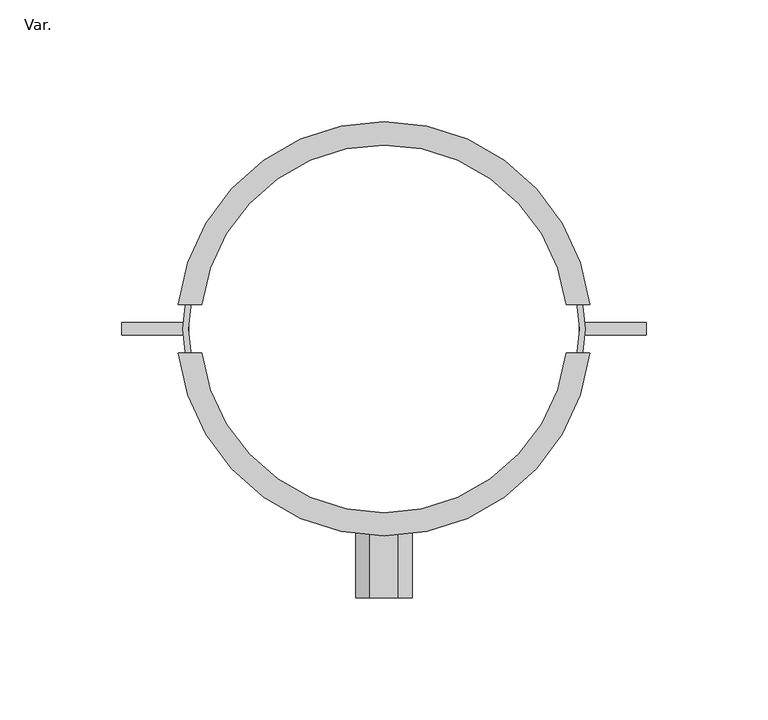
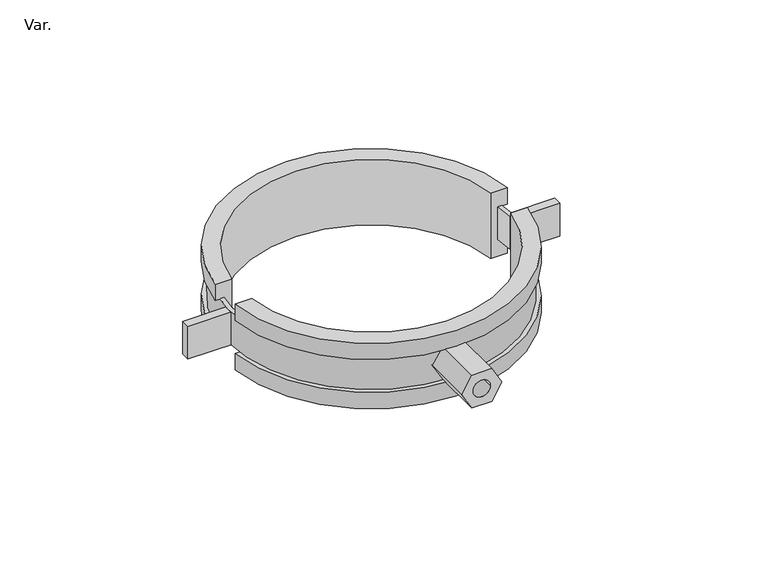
"""IFC4 building model written with IfcOpenShell, lengths in millimetres: pipe fitting geometry, AmancoWavin_ConexõesdeTubos_EsgotoSilentiumAbraçadeiraV_Ecoat : Var.."""

from ifc_helpers import new_model, si_unit, point, frame, origin, origin_with_axes, origin_2d, place, context, project, spatial, polyline, circle_curve, trimmed, segment, composite_curve, outline, extrude, source, transform, mapped, element, save
from ifc_brep_helpers import plane_surface, cylinder_surface, revolved_surface, advanced_brep


def var_06b88987(model_context):
    return source(origin(), model_context, "Body", "SolidModel", [
        extrude(outline(polyline([(0.0, -11.5470054), (-10.0, -5.7735027), (-10.0, 5.7735027), (0.0, 11.5470054), (10.0, 5.7735027), (10.0, -5.7735027), (0.0, -11.5470054)]), holes=[composite_curve([segment(trimmed(circle_curve(origin_2d(), 5.0), [point((0.0, -5.0))], [point((0.0, 5.0))], True, "CARTESIAN"), True, "CONTINUOUS"), segment(trimmed(circle_curve(origin_2d(), 5.0), [point((0.0, 5.0))], [point((0.0, -5.0))], True, "CARTESIAN"), True, "CONTINUOUS")], self_intersect=False)]), frame((0.0, -110.5, 0.0), z_axis=(0.0, 1.0, 0.0), x_axis=(0.0, 0.0, 1.0)), (0.0, 0.0, 1.0), 30.0),
        extrude(outline(composite_curve([segment(trimmed(circle_curve(origin_2d(), 82.5), [point((-82.5, 0.0))], [point((82.5, 0.0))], False, "CARTESIAN"), True, "CONTINUOUS"), segment(trimmed(circle_curve(origin_2d(), 82.5), [point((82.5, 0.0))], [point((-82.5, 0.0))], False, "CARTESIAN"), True, "CONTINUOUS")], self_intersect=False), holes=[composite_curve([segment(trimmed(circle_curve(origin_2d(), 80.0), [point((-80.0, 0.0))], [point((80.0, 0.0))], True, "CARTESIAN"), True, "CONTINUOUS"), segment(trimmed(circle_curve(origin_2d(), 80.0), [point((80.0, 0.0))], [point((-80.0, 0.0))], True, "CARTESIAN"), True, "CONTINUOUS")], self_intersect=False)]), frame((0.0, 0.0, -10.0), z_axis=(0.0, 0.0, 1.0), x_axis=(1.0, 0.0, 0.0)), (0.0, 0.0, 1.0), 20.0),
        advanced_brep(
        [(74.8348181, -10.0, 20.0), (-74.8348181, -10.0, 20.0), (-84.4097151, -10.0, 20.0), (84.4097151, -10.0, 20.0), (74.8348181, -10.0, -20.0), (84.4097151, -10.0, -20.0), (-84.4097151, -10.0, -20.0), (-74.8348181, -10.0, -20.0), (-79.3725393, -10.0, 10.0), (79.3725393, -10.0, 10.0), (84.4097151, -10.0, 10.0), (-84.4097151, -10.0, 10.0), (79.3725393, -10.0, -10.0), (-79.3725393, -10.0, -10.0), (-84.4097151, -10.0, -10.0), (84.4097151, -10.0, -10.0)],
        [
            (0, 1, circle_curve(frame((0.0, 0.0, 20.0), z_axis=(0.0, 0.0, -1.0), x_axis=(1.0, 0.0, 0.0)), 75.5)),
            (1, 2),
            (2, 3, circle_curve(frame((0.0, 0.0, 20.0), z_axis=(0.0, 0.0, 1.0), x_axis=(1.0, 0.0, 0.0)), 85.0)),
            (3, 0),
            (4, 5),
            (5, 6, circle_curve(frame((0.0, 0.0, -20.0), z_axis=(0.0, 0.0, -1.0), x_axis=(1.0, 0.0, 0.0)), 85.0)),
            (6, 7),
            (7, 4, circle_curve(frame((0.0, 0.0, -20.0), z_axis=(0.0, 0.0, 1.0), x_axis=(1.0, 0.0, 0.0)), 75.5)),
            (0, 4),
            (7, 1),
            (8, 9, circle_curve(frame((0.0, 0.0, 10.0), z_axis=(0.0, 0.0, 1.0), x_axis=(1.0, 0.0, 0.0)), 80.0)),
            (9, 10),
            (10, 11, circle_curve(frame((0.0, 0.0, 10.0), z_axis=(0.0, 0.0, -1.0), x_axis=(1.0, 0.0, 0.0)), 85.0)),
            (11, 8),
            (12, 13, circle_curve(frame((0.0, 0.0, -10.0), z_axis=(0.0, 0.0, -1.0), x_axis=(1.0, 0.0, 0.0)), 80.0)),
            (13, 14),
            (14, 15, circle_curve(frame((0.0, 0.0, -10.0), z_axis=(0.0, 0.0, 1.0), x_axis=(1.0, 0.0, 0.0)), 85.0)),
            (15, 12),
            (8, 13),
            (12, 9),
            (6, 14),
            (11, 2),
            (10, 3),
            (5, 15),
        ],
        [
            plane_surface(frame((75.5, 0.0, 20.0), z_axis=(0.0, 0.0, 1.0), x_axis=(0.0, -1.0, 0.0))),
            plane_surface(frame((75.5, 0.0, -20.0), z_axis=(0.0, 0.0, -1.0), x_axis=(0.0, 1.0, 0.0))),
            revolved_surface(polyline([(75.5, 0.0, -20.0), (75.5, 0.0, 20.0)]), (0.0, 0.0, -20.0), (0.0, 0.0, -1.0)),
            plane_surface(frame((80.0, 0.0, 10.0), z_axis=(0.0, 0.0, -1.0), x_axis=(0.0, -1.0, 0.0))),
            plane_surface(frame((80.0, 0.0, -10.0), z_axis=(0.0, 0.0, 1.0), x_axis=(0.0, 1.0, 0.0))),
            cylinder_surface(frame((0.0, 0.0, -10.0), z_axis=(0.0, 0.0, -1.0), x_axis=(1.0, 0.0, 0.0)), 80.0),
            plane_surface(frame((-74.8348181, -10.0, 20.0), z_axis=(0.0, 1.0, 0.0), x_axis=(0.0, 0.0, -1.0))),
            cylinder_surface(frame((0.0, 0.0, -20.0), z_axis=(0.0, 0.0, 1.0), x_axis=(1.0, 0.0, 0.0)), 85.0),
            plane_surface(frame((84.4097151, -10.0, 20.0), z_axis=(0.0, 1.0, 0.0), x_axis=(0.0, 0.0, -1.0))),
        ],
        [
            (0, [[1, 2, 3, 4]]),
            (1, [[5, 6, 7, 8]]),
            (2, [[-1, 9, -8, 10]]),
            (3, [[11, 12, 13, 14]]),
            (4, [[15, 16, 17, 18]]),
            (5, [[-11, 19, -15, 20]]),
            (6, [[-2, -10, -7, 21, -16, -19, -14, 22]]),
            (7, [[-3, -22, -13, 23]]),
            (7, [[-6, 24, -17, -21]]),
            (8, [[-4, -23, -12, -20, -18, -24, -5, -9]]),
        ],
    ),
        advanced_brep(
        [(-74.8348181, 10.0, 20.0), (74.8348181, 10.0, 20.0), (84.4097151, 10.0, 20.0), (-84.4097151, 10.0, 20.0), (-74.8348181, 10.0, -20.0), (-84.4097151, 10.0, -20.0), (84.4097151, 10.0, -20.0), (74.8348181, 10.0, -20.0), (79.3725393, 10.0, 10.0), (-79.3725393, 10.0, 10.0), (-84.4097151, 10.0, 10.0), (84.4097151, 10.0, 10.0), (-79.3725393, 10.0, -10.0), (79.3725393, 10.0, -10.0), (84.4097151, 10.0, -10.0), (-84.4097151, 10.0, -10.0)],
        [
            (0, 1, circle_curve(frame((0.0, 0.0, 20.0), z_axis=(0.0, 0.0, -1.0), x_axis=(1.0, 0.0, 0.0)), 75.5)),
            (1, 2),
            (2, 3, circle_curve(frame((0.0, 0.0, 20.0), z_axis=(0.0, 0.0, 1.0), x_axis=(1.0, 0.0, 0.0)), 85.0)),
            (3, 0),
            (4, 5),
            (5, 6, circle_curve(frame((0.0, 0.0, -20.0), z_axis=(0.0, 0.0, -1.0), x_axis=(1.0, 0.0, 0.0)), 85.0)),
            (6, 7),
            (7, 4, circle_curve(frame((0.0, 0.0, -20.0), z_axis=(0.0, 0.0, 1.0), x_axis=(1.0, 0.0, 0.0)), 75.5)),
            (8, 9, circle_curve(frame((0.0, 0.0, 10.0), z_axis=(0.0, 0.0, 1.0), x_axis=(1.0, 0.0, 0.0)), 80.0)),
            (9, 10),
            (10, 11, circle_curve(frame((0.0, 0.0, 10.0), z_axis=(0.0, 0.0, -1.0), x_axis=(1.0, 0.0, 0.0)), 85.0)),
            (11, 8),
            (12, 13, circle_curve(frame((0.0, 0.0, -10.0), z_axis=(0.0, 0.0, -1.0), x_axis=(1.0, 0.0, 0.0)), 80.0)),
            (13, 14),
            (14, 15, circle_curve(frame((0.0, 0.0, -10.0), z_axis=(0.0, 0.0, 1.0), x_axis=(1.0, 0.0, 0.0)), 85.0)),
            (15, 12),
            (8, 13),
            (12, 9),
            (0, 4),
            (7, 1),
            (6, 14),
            (11, 2),
            (10, 3),
            (5, 15),
        ],
        [
            plane_surface(frame((75.5, 0.0, 20.0), z_axis=(0.0, 0.0, 1.0), x_axis=(0.0, -1.0, 0.0))),
            plane_surface(frame((75.5, 0.0, -20.0), z_axis=(0.0, 0.0, -1.0), x_axis=(0.0, 1.0, 0.0))),
            plane_surface(frame((80.0, 0.0, 10.0), z_axis=(0.0, 0.0, -1.0), x_axis=(0.0, -1.0, 0.0))),
            plane_surface(frame((80.0, 0.0, -10.0), z_axis=(0.0, 0.0, 1.0), x_axis=(0.0, 1.0, 0.0))),
            cylinder_surface(frame((0.0, 0.0, -10.0), z_axis=(0.0, 0.0, -1.0), x_axis=(1.0, 0.0, 0.0)), 80.0),
            revolved_surface(polyline([(75.5, 0.0, -20.0), (75.5, 0.0, 20.0)]), (0.0, 0.0, 0.0), (0.0, 0.0, -1.0)),
            plane_surface(frame((74.8348181, 10.0, 20.0), z_axis=(0.0, -1.0, 0.0), x_axis=(0.0, 0.0, -1.0))),
            cylinder_surface(origin_with_axes(), 85.0),
            plane_surface(frame((-84.4097151, 10.0, 20.0), z_axis=(0.0, -1.0, 0.0), x_axis=(0.0, 0.0, -1.0))),
        ],
        [
            (0, [[1, 2, 3, 4]]),
            (1, [[5, 6, 7, 8]]),
            (2, [[9, 10, 11, 12]]),
            (3, [[13, 14, 15, 16]]),
            (4, [[-9, 17, -13, 18]]),
            (5, [[-1, 19, -8, 20]]),
            (6, [[-2, -20, -7, 21, -14, -17, -12, 22]]),
            (7, [[-3, -22, -11, 23]]),
            (7, [[-6, 24, -15, -21]]),
            (8, [[-4, -23, -10, -18, -16, -24, -5, -19]]),
        ],
    ),
        extrude(outline(polyline([(-107.53, 2.5), (-80.0, 2.5), (-80.0, -2.5), (-107.53, -2.5), (-107.53, 2.5)])), frame((0.0, 0.0, -10.0), z_axis=(0.0, 0.0, 1.0), x_axis=(1.0, 0.0, 0.0)), (0.0, 0.0, 1.0), 20.0),
        extrude(outline(polyline([(107.53, 2.5), (107.53, -2.5), (80.0, -2.5), (80.0, 2.5), (107.53, 2.5)])), frame((0.0, 0.0, -10.0), z_axis=(0.0, 0.0, 1.0), x_axis=(1.0, 0.0, 0.0)), (0.0, 0.0, 1.0), 20.0),
    ])


if __name__ == "__main__":
    model = new_model("IFC4")
    model_context = context("Model", 3, world=origin())
    ifc_project = project(units=[si_unit("LENGTHUNIT", "METRE", prefix="MILLI")], contexts=[model_context])
    site = spatial("IfcSite", under=ifc_project)
    building = spatial("IfcBuilding", under=site)
    placement = place(None, origin())
    var_shape = var_06b88987(model_context)
    element("IfcPipeFitting", 1, ObjectType="AmancoWavin_ConexõesdeTubos_EsgotoSilentiumAbraçadeiraV_Ecoat : Var.", at=placement, inside=building, context=model_context, shape_type="MappedRepresentation", body=[
        mapped(var_shape, transform((0.0, 0.0, 0.0), x_axis=(1.0, 0.0, 0.0), y_axis=(0.0, 1.0, 0.0), z_axis=(0.0, 0.0, 1.0))),
    ])
    save(model, "model.ifc")
